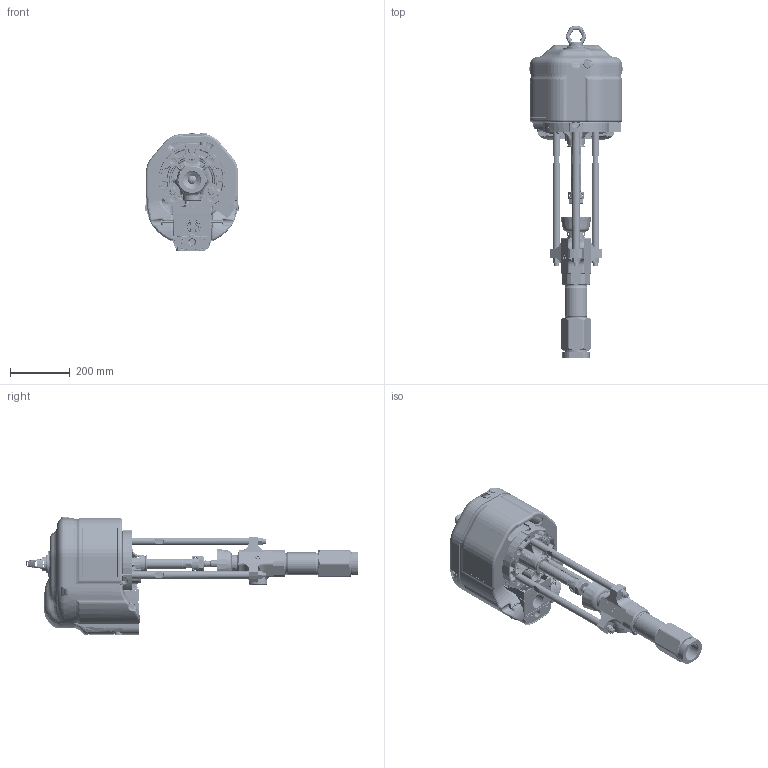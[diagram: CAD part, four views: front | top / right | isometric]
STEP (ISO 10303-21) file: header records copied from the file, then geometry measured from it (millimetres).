
FILE_DESCRIPTION((''),'2;1');
FILE_NAME('P21CSS-EN-A_PRT','2020-05-28T13:57:17',('qusrh3'),(''),'CREO PARAMETRIC BY PTC INC, 2019030','CREO PARAMETRIC BY PTC INC, 2019030','');
FILE_SCHEMA(('CONFIG_CONTROL_DESIGN'));
Products named in the file (1): P21CSS-EN-A_PRT
Bounding box: 314.71 x 1109.79 x 395.13 mm (x, y, z)
Surface area: 2893406 mm2 (no closed solid volume)
Topology: 0 solids, 607 shells, 5505 faces, 23517 edges, 17814 vertices
Faces by surface type: plane 1718, cylinder 1497, bspline 902, torus 719, cone 626, sphere 30, extrusion 13
Entity records: 317701 total; most frequent: CARTESIAN_POINT 149869, ORIENTED_EDGE 32530, DIRECTION 29601, EDGE_CURVE 23501, VERTEX_POINT 17814, AXIS2_PLACEMENT_3D 11126, B_SPLINE_CURVE_WITH_KNOTS 9642, VECTOR 7349
